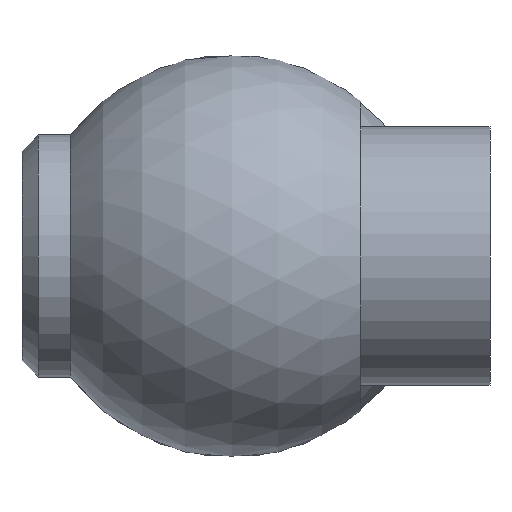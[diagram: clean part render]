
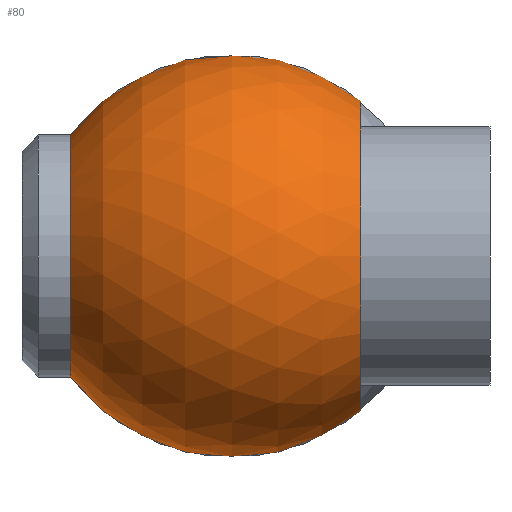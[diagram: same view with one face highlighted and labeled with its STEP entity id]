
A CAD part, left-side view. The second image highlights one B-rep face of the part: STEP entity #80.
In plain terms, the highlighted spherical face has radius 12.5 mm.
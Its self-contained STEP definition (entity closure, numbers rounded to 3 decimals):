
#80 = ADVANCED_FACE( '', ( #106, #107, #108 ), #109, .T. );
#106 = FACE_OUTER_BOUND( '', #151, .T. );
#107 = FACE_BOUND( '', #152, .T. );
#108 = FACE_OUTER_BOUND( '', #153, .T. );
#109 = SPHERICAL_SURFACE( '', #154, 12.5 );
#151 = EDGE_LOOP( '', ( #206 ) );
#152 = EDGE_LOOP( '', ( #207 ) );
#153 = EDGE_LOOP( '', ( #208 ) );
#154 = AXIS2_PLACEMENT_3D( '', #209, #210, #211 );
#206 = ORIENTED_EDGE( '', *, *, #264, .T. );
#207 = ORIENTED_EDGE( '', *, *, #259, .T. );
#208 = ORIENTED_EDGE( '', *, *, #265, .F. );
#209 = CARTESIAN_POINT( '', ( 0., 16., 0. ) );
#210 = DIRECTION( '', ( 0., -1., 0. ) );
#211 = DIRECTION( '', ( 1., 0., 0. ) );
#259 = EDGE_CURVE( '', #276, #276, #277, .T. );
#264 = EDGE_CURVE( '', #286, #286, #287, .T. );
#265 = EDGE_CURVE( '', #288, #288, #289, .T. );
#276 = VERTEX_POINT( '', #304 );
#277 = CIRCLE( '', #305, 5.5 );
#286 = VERTEX_POINT( '', #314 );
#287 = CIRCLE( '', #315, 7.5 );
#288 = VERTEX_POINT( '', #316 );
#289 = CIRCLE( '', #317, 9.605 );
#304 = CARTESIAN_POINT( '', ( 11.225, 16., 5.5 ) );
#305 = AXIS2_PLACEMENT_3D( '', #334, #335, #336 );
#314 = CARTESIAN_POINT( '', ( 7.5, 26., 0. ) );
#315 = AXIS2_PLACEMENT_3D( '', #349, #350, #351 );
#316 = CARTESIAN_POINT( '', ( 9.605, 8., 0. ) );
#317 = AXIS2_PLACEMENT_3D( '', #352, #353, #354 );
#334 = CARTESIAN_POINT( '', ( 11.225, 16., 0. ) );
#335 = DIRECTION( '', ( -1., 0., 0. ) );
#336 = DIRECTION( '', ( 0., 0., 1. ) );
#349 = CARTESIAN_POINT( '', ( 0., 26., 0. ) );
#350 = DIRECTION( '', ( 0., -1., 0. ) );
#351 = DIRECTION( '', ( 1., 0., 0. ) );
#352 = CARTESIAN_POINT( '', ( 0., 8., 0. ) );
#353 = DIRECTION( '', ( 0., -1., 0. ) );
#354 = DIRECTION( '', ( 1., 0., 0. ) );
